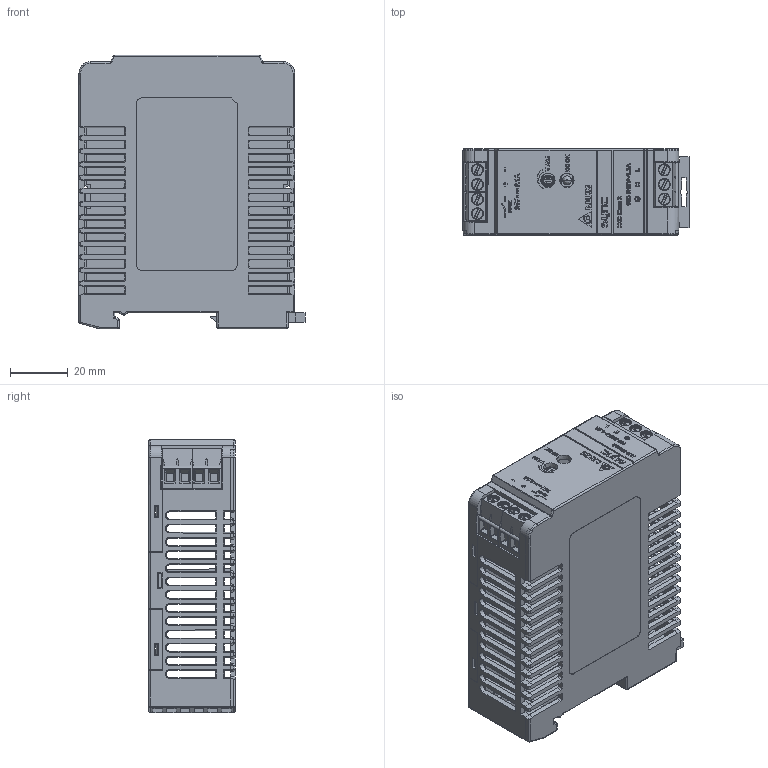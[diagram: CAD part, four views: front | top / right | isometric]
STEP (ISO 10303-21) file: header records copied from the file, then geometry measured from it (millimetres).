
FILE_DESCRIPTION((''),'2;1');
FILE_NAME('PD00-DRS-24V50W1NR_ASM','2018-09-19T',('pattrapol.seng'),(''),'PRO/ENGINEER BY PARAMETRIC TECHNOLOGY CORPORATION, 2010180','PRO/ENGINEER BY PARAMETRIC TECHNOLOGY CORPORATION, 2010180','');
FILE_SCHEMA(('CONFIG_CONTROL_DESIGN','SHAPE_APPEARANCE_LAYERS_GROUPS'));
Products named in the file (17): MAINBOARD_50W; DC_BOARD_50W; MB310-508M03Y_INPUT; MB310-508M02Y_OUTPUT_50W; MB310-508M04Y_ASM; 307655086G; 307655076G; ASSY_DCT-XXXX_ASM; EE_LED_50W; EE_VR-50W; 307022146G; 307022136G; ASSY_MAINBOARD_50W_ASM; 3300026TPS00; 3471801700_CLIP-BOM; 3300027TPS00_24V_DELTA; PD00-DRS-24V50W1NR_ASM
Assembly tree (17 placements, depth 5):
  PD00-DRS-24V50W1NR_ASM
    ASSY_MAINBOARD_50W_ASM
      MAINBOARD_50W
      ASSY_DCT-XXXX_ASM
        DC_BOARD_50W
        MB310-508M03Y_INPUT
        MB310-508M04Y_ASM
          MB310-508M02Y_OUTPUT_50W  x2
        307655086G
        307655076G
      EE_LED_50W
      EE_VR-50W
      307022146G
      307022136G
    3300026TPS00
    3471801700_CLIP-BOM
    3300027TPS00_24V_DELTA
Bounding box: 78.6 x 30 x 95.03 mm (x, y, z)
Volume: 49461.9 mm3; surface area: 70037.3 mm2
Topology: 14 solids, 17 shells, 6182 faces, 14915 edges, 8911 vertices
Faces by surface type: plane 2598, cylinder 1865, sphere 599, torus 486, extrusion 323, bspline 182, cone 129
Entity records: 193371 total; most frequent: CARTESIAN_POINT 42836, ORIENTED_EDGE 28064, DIRECTION 27486, EDGE_CURVE 14032, AXIS2_PLACEMENT_3D 9191, VECTOR 9104, LINE 8783, VERTEX_POINT 8410
